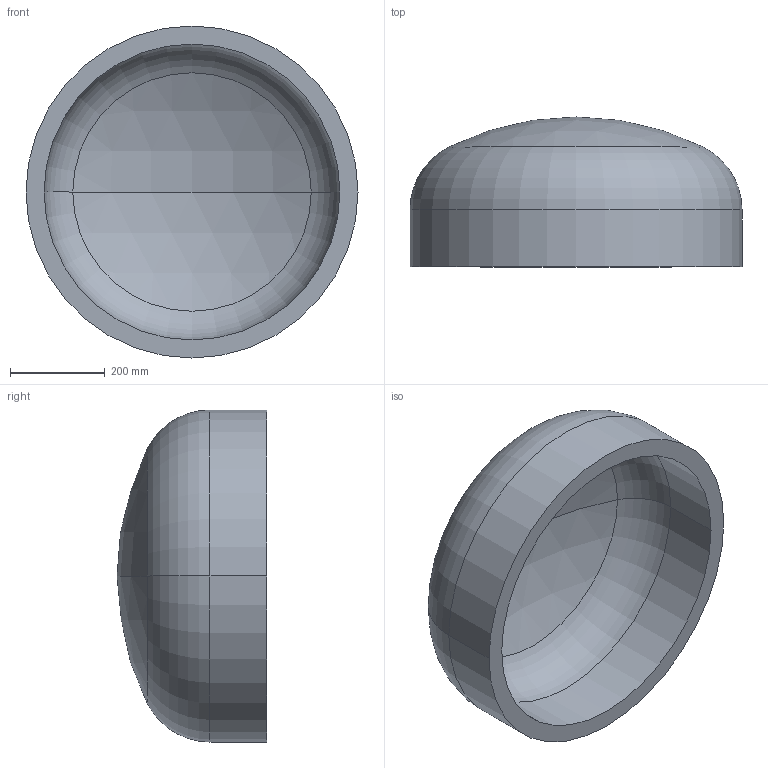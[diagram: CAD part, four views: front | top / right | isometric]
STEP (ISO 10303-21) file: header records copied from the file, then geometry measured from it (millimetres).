
FILE_DESCRIPTION (( 'STEP AP203' ), '1' );
FILE_NAME ('DIN 28013 Korbbogenform_-_Boden DIN 28013 - 700 x 120 - I - s=38.step', '2016-07-01T08:07:22', ( '' ), ( '' ), 'SwSTEP 2.0', 'SolidWorks 2013', '' );
FILE_SCHEMA (( 'CONFIG_CONTROL_DESIGN' ));
Length unit declared in the file: millimetre
Products named in the file (1): DIN 28013 Korbbogenform_-_Boden DIN 28013 - 700 x 120 - I - s=38
Bounding box: 700 x 315.89 x 700 mm (x, y, z)
Volume: 28456866.7 mm3; surface area: 1579783.8 mm2
Topology: 1 solids, 1 shells, 13 faces, 24 edges, 14 vertices
Faces by surface type: torus 4, cylinder 4, sphere 4, plane 1
Entity records: 407 total; most frequent: DIRECTION 72, CARTESIAN_POINT 52, ORIENTED_EDGE 48, AXIS2_PLACEMENT_3D 34, EDGE_CURVE 24, CIRCLE 20, VERTEX_POINT 14, EDGE_LOOP 14
